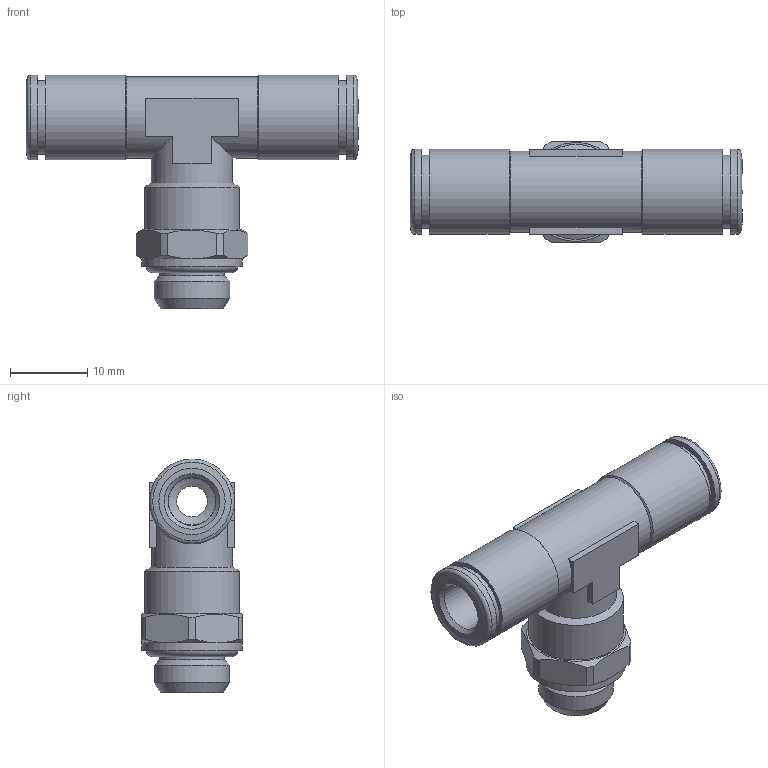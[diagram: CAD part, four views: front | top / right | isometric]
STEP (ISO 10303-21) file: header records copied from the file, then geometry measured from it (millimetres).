
FILE_DESCRIPTION(/* description */ (''),/* implementation_level */ '2;1');
FILE_NAME(/* name */ '202003_STX_20_6_18_17.09.15',/* time_stamp */ '2015-09-17T09:16:38+02:00',/* author */ (''),/* organization */ (''),/* preprocessor_version */ 'ST-DEVELOPER v14',/* originating_system */ 'HiCAD 2013 1802.4 Build 509',/* authorisation */ '');
FILE_SCHEMA (('AUTOMOTIVE_DESIGN { 1 0 10303 214 1 1 1 1 }'));
Length unit declared in the file: millimetre
Products named in the file (6): Root; OR 7.2X1.9; 214602-1-N2_Gew-Stck._1-8_1-8_AISI; R202003-ES-N2; DR6-1_NEU
Assembly tree (5 placements, depth 2):
  Root
    OR 7.2X1.9
    214602-1-N2_Gew-Stck._1-8_1-8_AISI
    R202003-ES-N2
    DR6-1_NEU
    DR6-1_NEU
Bounding box: 43 x 13 x 30.3 mm (x, y, z)
Volume: 3973.7 mm3; surface area: 5414.1 mm2
Topology: 5 solids, 5 shells, 117 faces, 256 edges, 156 vertices
Faces by surface type: plane 42, cylinder 35, cone 35, torus 5
Full cylindrical faces by diameter (mm): 4 x1, 5.5 x1, 6 x1, 6.1 x2, 6.2 x2, 8.3 x3, 9 x4, 9.5 x2, 9.6 x2, 9.728 x1, 10.1 x2, 10.5 x2, 11 x4, 12.3 x1, 13 x1
Entity records: 5596 total; most frequent: CARTESIAN_POINT 1217, DIRECTION 552, PRESENTATION_STYLE_ASSIGNMENT 383, OVER_RIDING_STYLED_ITEM 378, COLOUR_RGB 365, DRAUGHTING_PRE_DEFINED_CURVE_FONT 362, CURVE_STYLE 362, ORIENTED_EDGE 362
